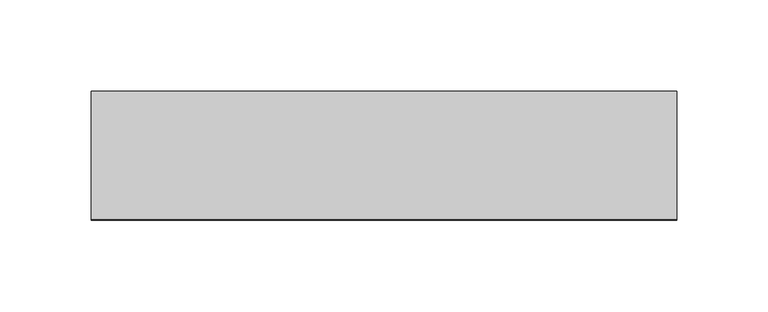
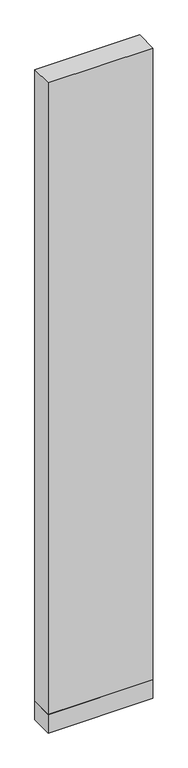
"""IFC4 building model written with IfcOpenShell, lengths in millimetres: plate geometry, 営_パーティションパネル_下部 : パーティションパネル_下部."""

from ifc_helpers import new_model, si_unit, frame, origin, origin_with_axes, place, context, project, spatial, polyline, outline, extrude, source, transform, mapped, element, save


def plate_647bdfd9(model_context):
    return source(origin(), model_context, "Body", "SweptSolid", [
        extrude(outline(polyline([(-160.0, -35.0), (-160.0, 35.0), (160.0, 35.0), (160.0, -35.0), (-160.0, -35.0)])), origin_with_axes(), (0.0, 0.0, 1.0), 60.0),
        extrude(outline(polyline([(-160.0, -35.0), (-160.0, 35.0), (160.0, 35.0), (160.0, -35.0), (-160.0, -35.0)])), frame((0.0, 0.0, 60.0), z_axis=(0.0, 0.0, 1.0), x_axis=(1.0, 0.0, 0.0)), (0.0, 0.0, 1.0), 2040.0),
    ])


if __name__ == "__main__":
    model = new_model("IFC4")
    model_context = context("Model", 3, world=origin())
    ifc_project = project(units=[si_unit("LENGTHUNIT", "METRE", prefix="MILLI")], contexts=[model_context])
    site = spatial("IfcSite", under=ifc_project)
    building = spatial("IfcBuilding", under=site)
    placement = place(None, origin())
    plate_shape = plate_647bdfd9(model_context)
    element("IfcPlate", 1, ObjectType="営_パーティションパネル_下部 : パーティションパネル_下部", at=placement, inside=building, context=model_context, shape_type="MappedRepresentation", body=[
        mapped(plate_shape, transform((0.0, 0.0, 0.0), x_axis=(1.0, 0.0, 0.0), y_axis=(0.0, 1.0, 0.0), z_axis=(0.0, 0.0, 1.0))),
    ])
    save(model, "model.ifc")
